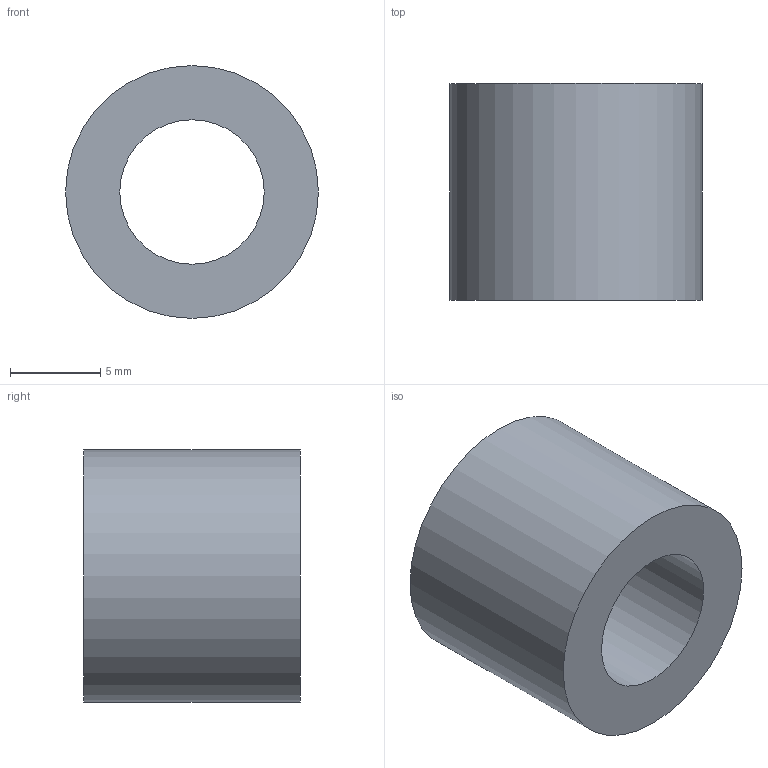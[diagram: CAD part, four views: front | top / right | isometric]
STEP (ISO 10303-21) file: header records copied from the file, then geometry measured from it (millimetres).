
FILE_DESCRIPTION(('Open CASCADE Model'),'2;1');
FILE_NAME('Open CASCADE Shape Model','2026-10-16T20:39:04',('Author'),( 'Open CASCADE'),'Open CASCADE STEP processor 7.8','Open CASCADE 7.8' ,'Unknown');
FILE_SCHEMA(('AUTOMOTIVE_DESIGN { 1 0 10303 214 1 1 1 1 }'));
Length unit declared in the file: millimetre
Products named in the file (1): Open CASCADE STEP translator 7.8 3
Bounding box: 14 x 12 x 14 mm (x, y, z)
Volume: 1244.1 mm3; surface area: 1036.7 mm2
Topology: 1 solids, 1 shells, 4 faces, 6 edges, 4 vertices
Faces by surface type: cylinder 2, plane 2
Full cylindrical faces by diameter (mm): 8 x1, 14 x1
Entity records: 186 total; most frequent: DIRECTION 32, CARTESIAN_POINT 27, ORIENTED_EDGE 12, PCURVE 12, DEFINITIONAL_REPRESENTATION 12, LINE 10, VECTOR 10, AXIS2_PLACEMENT_3D 9
